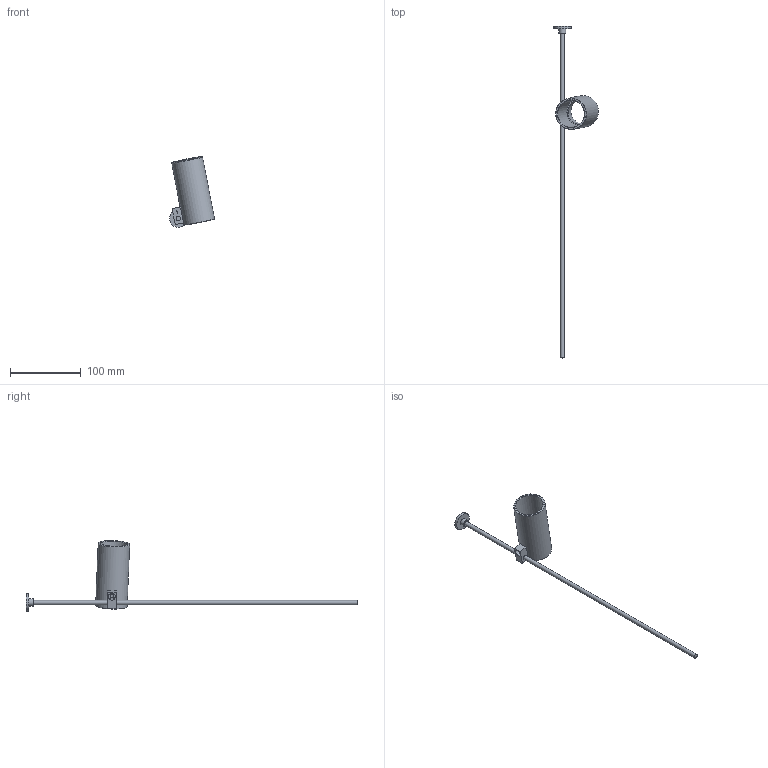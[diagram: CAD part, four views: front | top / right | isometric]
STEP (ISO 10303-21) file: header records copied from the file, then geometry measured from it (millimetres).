
FILE_DESCRIPTION(/* description */ (''),/* implementation_level */ '2;1');
FILE_NAME(/* name */ 'C:\Users\CN\Dropbox\LIBRERIE PROGETTI\CAD 3D - EU\GRILLO\1856XX00 - GRILLO.stp',/* time_stamp */ '2016-10-20T14:58:33+02:00',/* author */ ('CN'),/* organization */ (''),/* preprocessor_version */ 'ST-DEVELOPER v16.5',/* originating_system */ 'Autodesk Inventor 2017',/* authorisation */ '');
FILE_SCHEMA (('AUTOMOTIVE_DESIGN { 1 0 10303 214 3 1 1 }'));
Length unit declared in the file: centimetre
Products named in the file (1): 1856XX00 - GRILLO
Bounding box: 63.49 x 469 x 99.96 mm (x, y, z)
Volume: 57530.2 mm3; surface area: 36133.4 mm2
Topology: 3 solids, 3 shells, 35 faces, 70 edges, 45 vertices
Faces by surface type: plane 18, cylinder 11, cone 6
Full cylindrical faces by diameter (mm): 3 x1, 5 x1, 6 x1, 6.25 x2, 10 x2, 25 x1, 35 x1, 38.5 x1, 44.5 x1
Entity records: 920 total; most frequent: CARTESIAN_POINT 194, DIRECTION 148, ORIENTED_EDGE 100, EDGE_LOOP 64, AXIS2_PLACEMENT_3D 64, EDGE_CURVE 50, VERTEX_POINT 42, FACE_OUTER_BOUND 35
